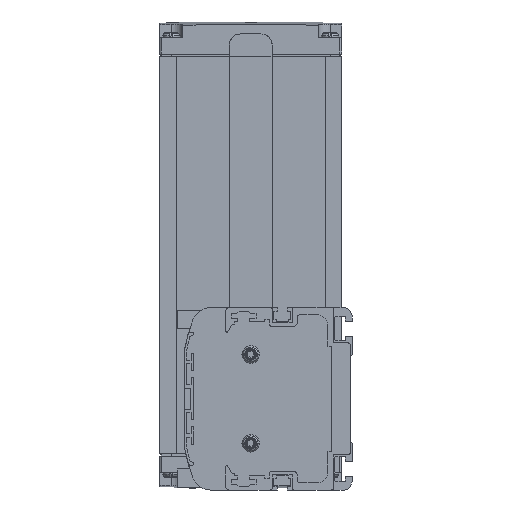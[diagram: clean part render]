
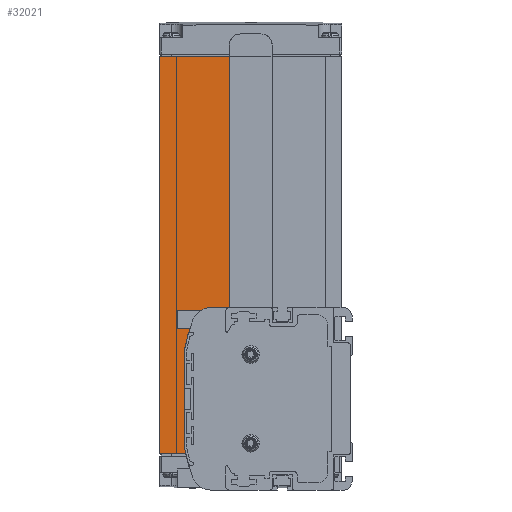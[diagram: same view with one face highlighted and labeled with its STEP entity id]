
A CAD part, left-side view. The second image highlights one B-rep face of the part: STEP entity #32021.
In plain terms, the highlighted planar face has unit normal (-1, 0, 0).
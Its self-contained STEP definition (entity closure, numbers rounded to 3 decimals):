
#7909=DIRECTION('',(0.,-1.,0.));
#7910=VECTOR('',#7909,11.203);
#7911=CARTESIAN_POINT('',(3.,82.5,-23.5));
#7912=LINE('',#7911,#7910);
#7913=DIRECTION('',(0.,0.,-1.));
#7914=VECTOR('',#7913,170.);
#7915=CARTESIAN_POINT('',(3.,82.5,146.5));
#7916=LINE('',#7915,#7914);
#7917=DIRECTION('',(0.,1.,0.));
#7918=VECTOR('',#7917,29.9);
#7919=CARTESIAN_POINT('',(3.,52.6,146.5));
#7920=LINE('',#7919,#7918);
#7921=DIRECTION('',(0.,-1.,0.));
#7922=VECTOR('',#7921,8.155);
#7923=CARTESIAN_POINT('',(3.,60.755,39.));
#7924=LINE('',#7923,#7922);
#10928=CARTESIAN_POINT('',(3.,-6.765,-6.));
#10929=DIRECTION('',(1.,0.,0.));
#10930=DIRECTION('',(0.,0.976,-0.219));
#10931=AXIS2_PLACEMENT_3D('',#10928,#10929,#10930);
#10937=CARTESIAN_POINT('',(3.,70.,-19.823));
#10938=DIRECTION('',(-1.,0.,0.));
#10939=DIRECTION('',(0.,1.,0.));
#10940=AXIS2_PLACEMENT_3D('',#10937,#10938,#10939);
#10950=DIRECTION('',(0.,0.,1.));
#10951=VECTOR('',#10950,39.645);
#10952=CARTESIAN_POINT('',(3.,72.,-19.823));
#10953=LINE('',#10952,#10951);
#10958=CARTESIAN_POINT('',(3.,70.,19.823));
#10959=DIRECTION('',(1.,0.,0.));
#10960=DIRECTION('',(0.,1.,0.));
#10961=AXIS2_PLACEMENT_3D('',#10958,#10959,#10960);
#10967=CARTESIAN_POINT('',(3.,-6.765,6.));
#10968=DIRECTION('',(1.,0.,0.));
#10969=DIRECTION('',(0.,0.984,0.177));
#10970=AXIS2_PLACEMENT_3D('',#10967,#10968,#10969);
#10972=CARTESIAN_POINT('',(3.,-6.765,6.));
#10973=DIRECTION('',(1.,0.,0.));
#10974=DIRECTION('',(0.,0.963,0.269));
#10975=AXIS2_PLACEMENT_3D('',#10972,#10973,#10974);
#10981=CARTESIAN_POINT('',(3.,60.755,31.));
#10982=DIRECTION('',(-1.,0.,0.));
#10983=DIRECTION('',(0.,0.,1.));
#10984=AXIS2_PLACEMENT_3D('',#10981,#10982,#10983);
#11375=DIRECTION('',(0.,-1.,0.));
#11376=VECTOR('',#11375,0.209);
#11377=CARTESIAN_POINT('',(3.,70.5,27.5));
#11378=LINE('',#11377,#11376);
#11399=DIRECTION('',(0.,0.,1.));
#11400=VECTOR('',#11399,0.762);
#11401=CARTESIAN_POINT('',(3.,70.5,26.738));
#11402=LINE('',#11401,#11400);
#11407=DIRECTION('',(0.,0.,1.));
#11408=VECTOR('',#11407,107.5);
#11409=CARTESIAN_POINT('',(3.,52.6,39.));
#11410=LINE('',#11409,#11408);
#17297=CARTESIAN_POINT('',(3.,82.5,-23.5));
#17299=VERTEX_POINT('',#17297);
#17394=CARTESIAN_POINT('',(3.,52.6,146.5));
#17395=VERTEX_POINT('',#17394);
#17396=CARTESIAN_POINT('',(3.,82.5,146.5));
#17397=VERTEX_POINT('',#17396);
#17430=CARTESIAN_POINT('',(3.,70.5,27.5));
#17431=VERTEX_POINT('',#17430);
#21327=CARTESIAN_POINT('',(3.,60.755,39.));
#21328=CARTESIAN_POINT('',(3.,52.6,39.));
#21329=VERTEX_POINT('',#21327);
#21330=VERTEX_POINT('',#21328);
#21331=CARTESIAN_POINT('',(3.,71.297,-23.5));
#21333=VERTEX_POINT('',#21331);
#21343=CARTESIAN_POINT('',(3.,70.5,26.738));
#21344=VERTEX_POINT('',#21343);
#21348=CARTESIAN_POINT('',(3.,70.291,27.5));
#21350=VERTEX_POINT('',#21348);
#21357=CARTESIAN_POINT('',(3.,72.,19.823));
#21358=CARTESIAN_POINT('',(3.,71.968,20.177));
#21359=VERTEX_POINT('',#21357);
#21360=VERTEX_POINT('',#21358);
#21361=CARTESIAN_POINT('',(3.,68.257,33.778));
#21362=VERTEX_POINT('',#21361);
#21375=CARTESIAN_POINT('',(3.,71.968,-20.177));
#21376=VERTEX_POINT('',#21375);
#21377=CARTESIAN_POINT('',(3.,72.,-19.823));
#21378=VERTEX_POINT('',#21377);
#31989=CARTESIAN_POINT('',(3.,67.55,61.5));
#31990=DIRECTION('',(1.,0.,0.));
#31991=DIRECTION('',(0.,-1.,0.));
#31992=AXIS2_PLACEMENT_3D('',#31989,#31990,#31991);
#31993=PLANE('',#31992);
#31995=ORIENTED_EDGE('',*,*,#31994,.F.);
#31997=ORIENTED_EDGE('',*,*,#31996,.T.);
#31999=ORIENTED_EDGE('',*,*,#31998,.F.);
#32001=ORIENTED_EDGE('',*,*,#32000,.F.);
#32003=ORIENTED_EDGE('',*,*,#32002,.F.);
#32005=ORIENTED_EDGE('',*,*,#32004,.F.);
#32007=ORIENTED_EDGE('',*,*,#32006,.F.);
#32009=ORIENTED_EDGE('',*,*,#32008,.F.);
#32011=ORIENTED_EDGE('',*,*,#32010,.T.);
#32013=ORIENTED_EDGE('',*,*,#32012,.F.);
#32014=ORIENTED_EDGE('',*,*,#26775,.F.);
#32015=ORIENTED_EDGE('',*,*,#31977,.F.);
#32016=ORIENTED_EDGE('',*,*,#29897,.F.);
#32018=ORIENTED_EDGE('',*,*,#32017,.F.);
#32019=EDGE_LOOP('',(#31995,#31997,#31999,#32001,#32003,#32005,#32007,#32009,
#32011,#32013,#32014,#32015,#32016,#32018));
#32020=FACE_OUTER_BOUND('',#32019,.F.);
#32021=ADVANCED_FACE('',(#32020),#31993,.F.);
#10932=CIRCLE('',#10931,80.);
#10941=CIRCLE('',#10940,2.);
#10962=CIRCLE('',#10961,2.);
#10971=CIRCLE('',#10970,80.);
#10976=CIRCLE('',#10975,80.);
#10985=CIRCLE('',#10984,8.);
#26775=EDGE_CURVE('',#17299,#21333,#7912,.T.);
#29897=EDGE_CURVE('',#17395,#17397,#7920,.T.);
#31977=EDGE_CURVE('',#17397,#17299,#7916,.T.);
#31994=EDGE_CURVE('',#21329,#21330,#7924,.T.);
#31996=EDGE_CURVE('',#21329,#21362,#10985,.T.);
#31998=EDGE_CURVE('',#21350,#21362,#10976,.T.);
#32000=EDGE_CURVE('',#17431,#21350,#11378,.T.);
#32002=EDGE_CURVE('',#21344,#17431,#11402,.T.);
#32004=EDGE_CURVE('',#21360,#21344,#10971,.T.);
#32006=EDGE_CURVE('',#21359,#21360,#10962,.T.);
#32008=EDGE_CURVE('',#21378,#21359,#10953,.T.);
#32010=EDGE_CURVE('',#21378,#21376,#10941,.T.);
#32012=EDGE_CURVE('',#21333,#21376,#10932,.T.);
#32017=EDGE_CURVE('',#21330,#17395,#11410,.T.);
